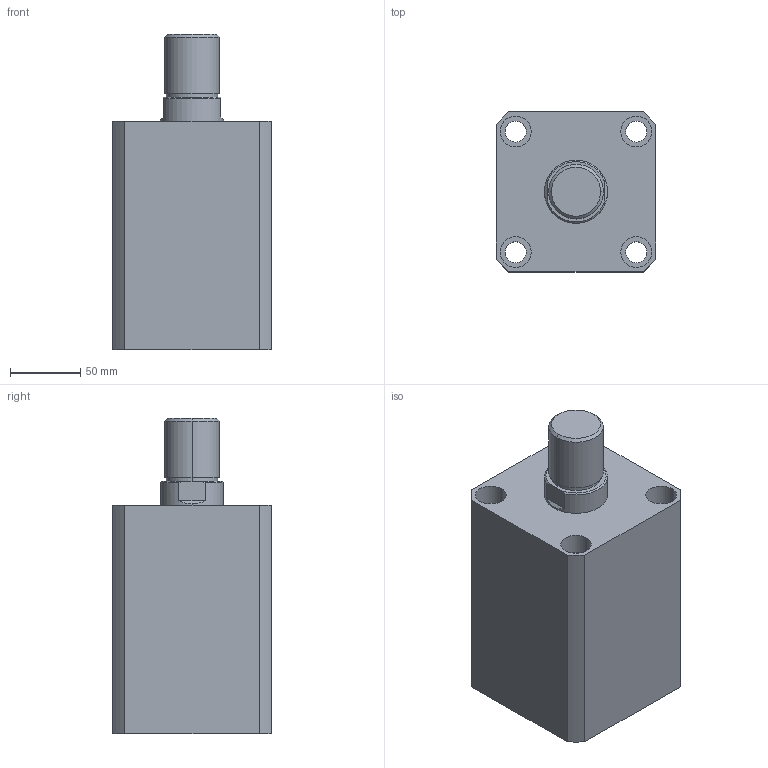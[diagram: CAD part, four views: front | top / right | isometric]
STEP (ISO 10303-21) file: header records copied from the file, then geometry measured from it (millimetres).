
FILE_DESCRIPTION (( 'STEP AP203' ), '1' );
FILE_NAME ('HTB-SDMB80-85W.STEP', '2019-10-09T06:12:52', ( '微软用户' ), ( '微软中国' ), 'SwSTEP 2.0', 'SolidWorks 2012', '' );
FILE_SCHEMA (( 'CONFIG_CONTROL_DESIGN' ));
Length unit declared in the file: millimetre
Products named in the file (3): HTB-SDMB80-85掛极; HTB-SDMB80-85W活塞杆; HTB-SDMB80-85W
Assembly tree (2 placements, depth 2):
  HTB-SDMB80-85W
    HTB-SDMB80-85掛极
    HTB-SDMB80-85W活塞杆
Bounding box: 114 x 114 x 225 mm (x, y, z)
Volume: 1739655.1 mm3; surface area: 211850.5 mm2
Topology: 2 solids, 2 shells, 141 faces, 337 edges, 222 vertices
Faces by surface type: plane 67, cylinder 48, bspline 16, torus 6, cone 4
Entity records: 5180 total; most frequent: CARTESIAN_POINT 1597, ORIENTED_EDGE 674, DIRECTION 669, EDGE_CURVE 337, AXIS2_PLACEMENT_3D 242, VERTEX_POINT 222, VECTOR 185, LINE 185
